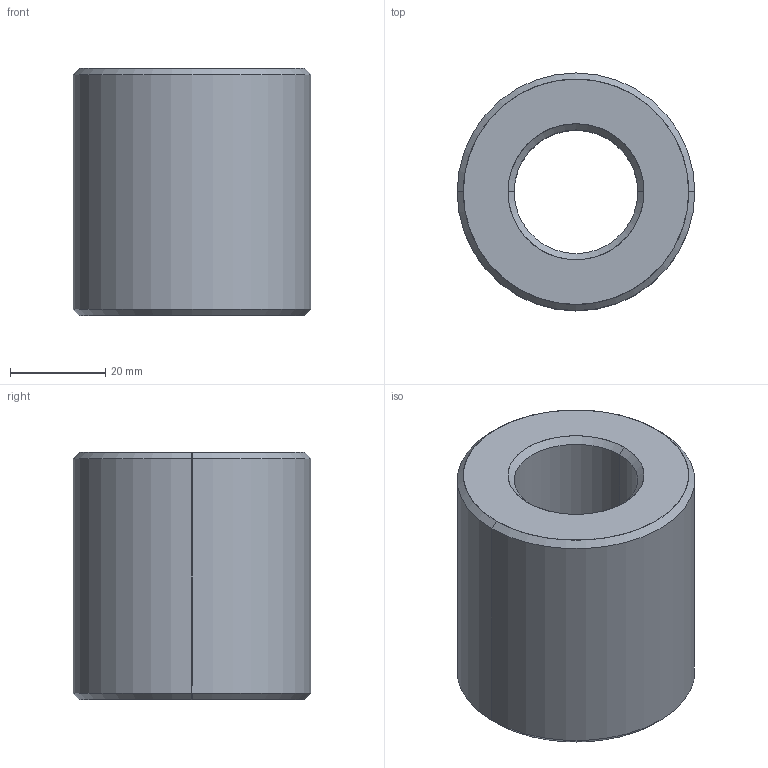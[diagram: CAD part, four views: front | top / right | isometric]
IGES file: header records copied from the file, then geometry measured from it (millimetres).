
Start section: SolidWorks IGES file using analytic representation for surfaces
Global section: file name: C:\Users\ianosborn\Desktop\L1330_v2\L1330_v2_20241024_IGES\L1330.R26-05.igs; native system: SolidWorks 2019; preprocessor: SolidWorks 2019; author: IanOsborn; date: 241024.102743; units: millimetre
Bounding box: 50 x 50 x 52 mm (x, y, z)
Surface area: 14917.1 mm2 (no closed solid volume)
Topology: 0 solids, 0 shells, 14 faces, 304 edges, 304 vertices
Faces by surface type: revolution 12, bspline 2
